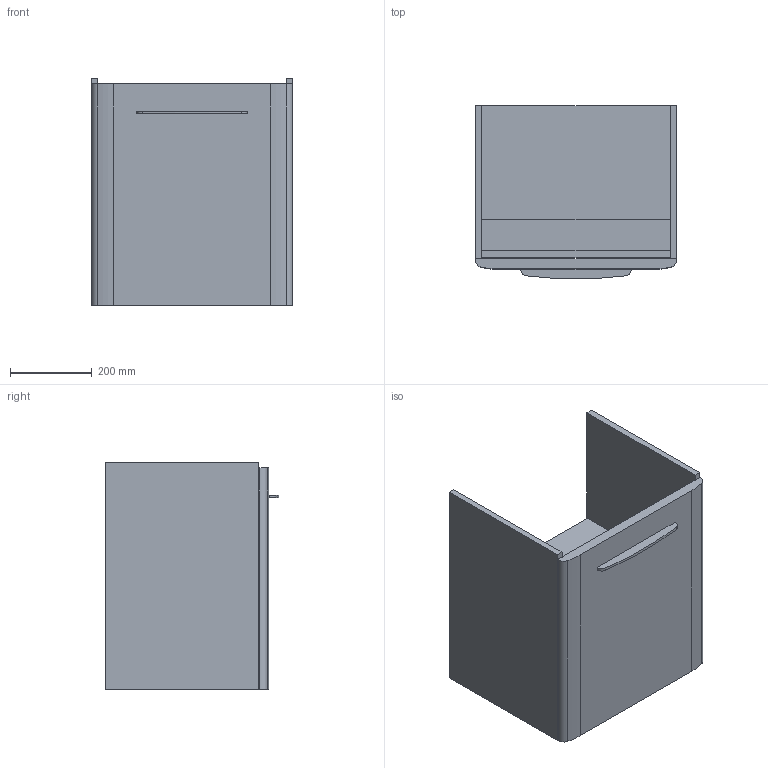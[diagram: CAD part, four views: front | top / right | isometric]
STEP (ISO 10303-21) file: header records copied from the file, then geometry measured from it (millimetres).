
FILE_DESCRIPTION(/* description */ (''),/* implementation_level */ '2;1');
FILE_NAME(/* name */ 'C:\Planerdaten\Export PLA\500.179.01.1\stp\500179.stp',/* time_stamp */ '2019-11-26T15:02:55+01:00',/* author */ ('JANAN'),/* organization */ (''),/* preprocessor_version */ 'ST-DEVELOPER v16.13',/* originating_system */ 'Autodesk Inventor 2018',/* authorisation */ '');
FILE_SCHEMA (('AUTOMOTIVE_DESIGN { 1 0 10303 214 3 1 1 }'));
Length unit declared in the file: millimetre
Products named in the file (1): US-f-1-WT Ge+SnvS B60 1-Tür w
Bounding box: 493 x 425.09 x 557 mm (x, y, z)
Volume: 19968921 mm3; surface area: 2325993.6 mm2
Topology: 2 solids, 2 shells, 45 faces, 114 edges, 76 vertices
Faces by surface type: plane 38, cylinder 7
Entity records: 1384 total; most frequent: CARTESIAN_POINT 236, ORIENTED_EDGE 228, DIRECTION 220, EDGE_CURVE 114, LINE 100, VECTOR 100, VERTEX_POINT 76, AXIS2_PLACEMENT_3D 60
